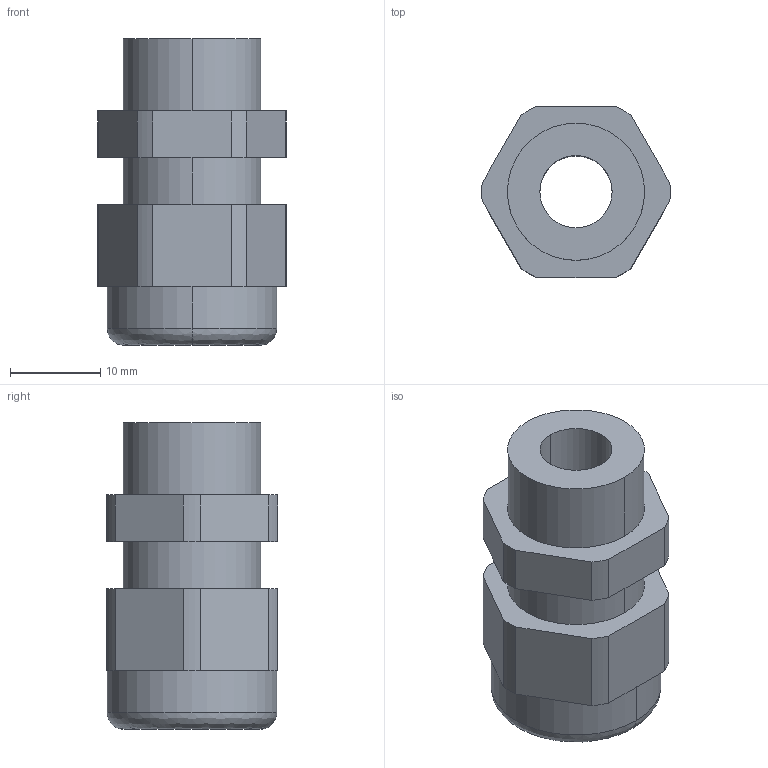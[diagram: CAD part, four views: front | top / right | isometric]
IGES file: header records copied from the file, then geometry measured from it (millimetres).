
Start section:  PTC IGES file: U:\ds\zip\sf\m16.igs
Global section: file name: U:\ds\zip\sf\m16.igs; native system: Pro/ENGINEER by Parametric Technology Corporation; preprocessor: 2003450; author: ds; organization: Unknown; date: 040803.081919; units: millimetre
Bounding box: 20.89 x 19 x 34 mm (x, y, z)
Surface area: 3510.3 mm2 (no closed solid volume)
Topology: 0 solids, 0 shells, 40 faces, 200 edges, 200 vertices
Faces by surface type: revolution 22, bspline 18
